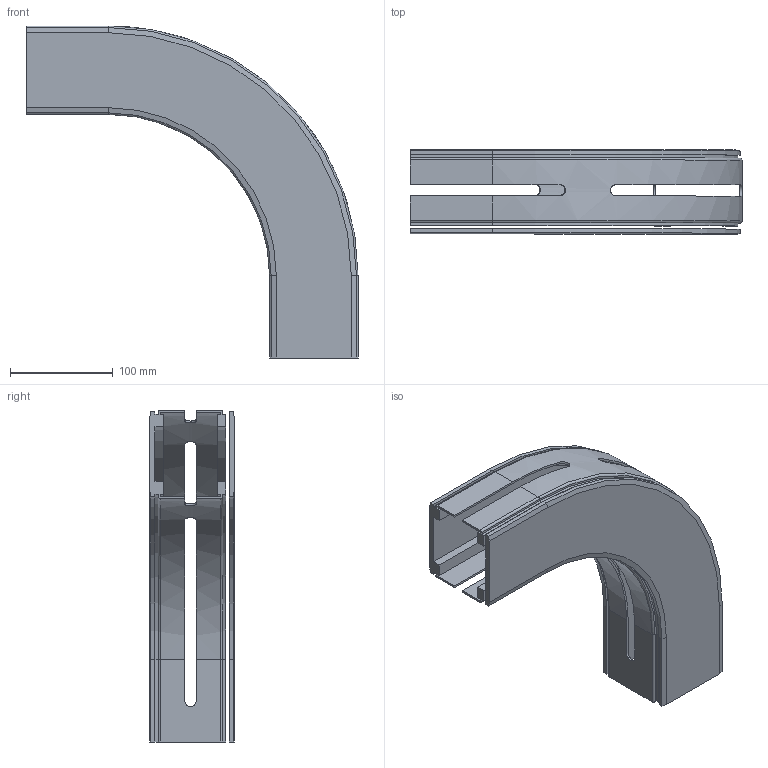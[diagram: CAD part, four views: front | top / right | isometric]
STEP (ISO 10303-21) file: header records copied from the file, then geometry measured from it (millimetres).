
FILE_DESCRIPTION((''),'2;1');
FILE_NAME('C:\Vault Klient\Projekt\Koncept konstruktion\Serie 530 Balk\530-5160.stp','2010-12-01T07:58:29',('Mathias'),(''),'Autodesk Inventor 2011','Autodesk Inventor 2011','');
FILE_SCHEMA(('AUTOMOTIVE_DESIGN { 1 0 10303 214 1 1 1 1 }'));
Length unit declared in the file: millimetre
Products named in the file (1): 530-5160
Bounding box: 323 x 82 x 323 mm (x, y, z)
Volume: 686443.2 mm3; surface area: 329644 mm2
Topology: 2 solids, 2 shells, 163 faces, 458 edges, 300 vertices
Faces by surface type: plane 107, cylinder 30, bspline 18, torus 4, cone 4
Entity records: 5598 total; most frequent: CARTESIAN_POINT 1344, ORIENTED_EDGE 916, DIRECTION 798, EDGE_CURVE 458, VECTOR 338, LINE 338, VERTEX_POINT 300, AXIS2_PLACEMENT_3D 230
